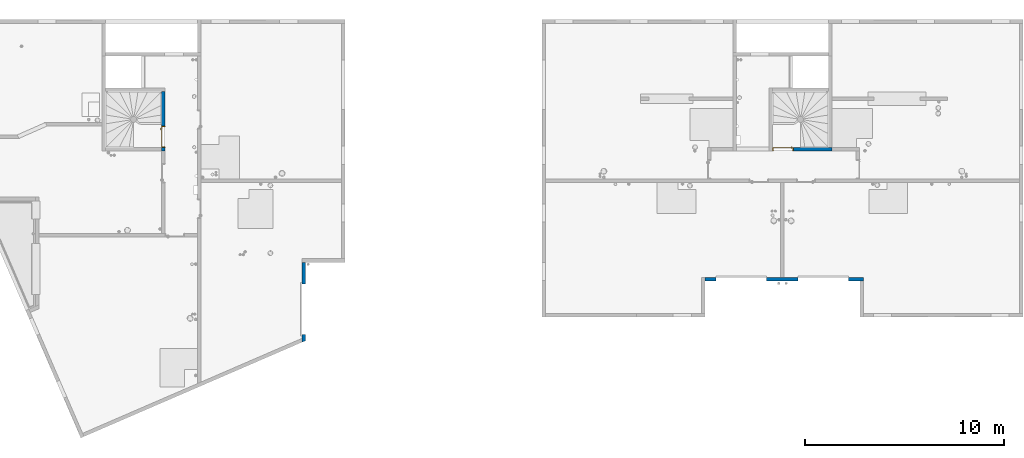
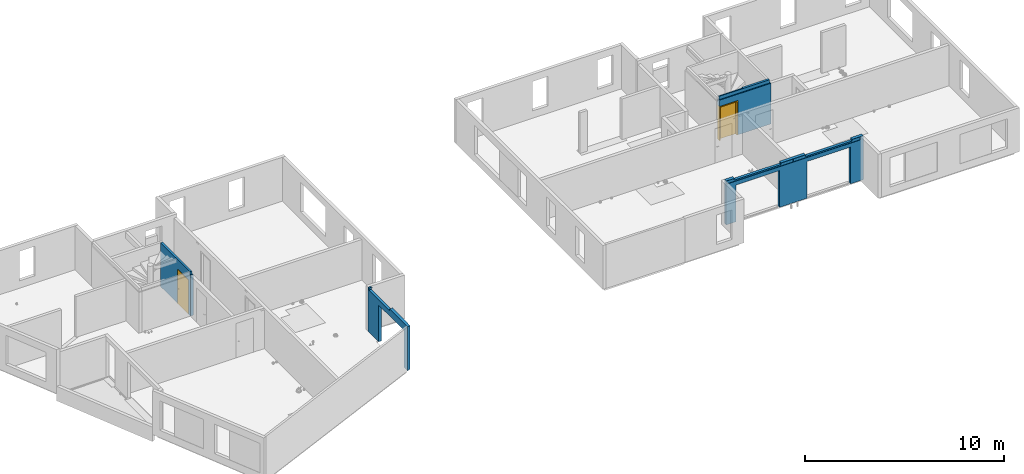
# One storey, part 17 of 24: 4 walls, 2 doors, 2 openings.
"""IFC2X3 building model written with IfcOpenShell, lengths in centimetres."""

from ifc_helpers import new_model, entity, si_unit, converted_unit, derived_unit, direction, frame, frame_2d, origin, place, context, subcontext, project, spatial, rectangle, extrude, faceted_brep, source, transform, mapped, material, material_list, layer, layer_set, type_object, type_shapes, element, fill, save


model = new_model("IFC2X3")

# Units and contexts
model_context = context("Model", 3, precision=0.001, world=origin(), true_north=direction((6.12303176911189e-17, 1.0)))
body_context = subcontext(model_context, "Body", "Model", "MODEL_VIEW")
ifc_project = project(units=[si_unit("LENGTHUNIT", "METRE", prefix="CENTI"), si_unit("AREAUNIT", "SQUARE_METRE"), si_unit("VOLUMEUNIT", "CUBIC_METRE"), converted_unit("PLANEANGLEUNIT", "DEGREE", entity("IfcRatioMeasure", 0.0174532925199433), si_unit("PLANEANGLEUNIT", "RADIAN"), dimensions=[0, 0, 0, 0, 0, 0, 0]), si_unit("MASSUNIT", "GRAM", prefix="KILO"), derived_unit("MASSDENSITYUNIT", [(si_unit("MASSUNIT", "GRAM", prefix="KILO"), 1), (si_unit("LENGTHUNIT", "METRE"), -3)]), si_unit("TIMEUNIT", "SECOND"), si_unit("FREQUENCYUNIT", "HERTZ"), si_unit("THERMODYNAMICTEMPERATUREUNIT", "DEGREE_CELSIUS"), derived_unit("THERMALTRANSMITTANCEUNIT", [(si_unit("MASSUNIT", "GRAM", prefix="KILO"), 1), (si_unit("THERMODYNAMICTEMPERATUREUNIT", "KELVIN"), -1), (si_unit("TIMEUNIT", "SECOND"), -3)]), derived_unit("VOLUMETRICFLOWRATEUNIT", [(si_unit("LENGTHUNIT", "METRE"), 3), (si_unit("TIMEUNIT", "SECOND"), -1)]), si_unit("ELECTRICCURRENTUNIT", "AMPERE"), si_unit("ELECTRICVOLTAGEUNIT", "VOLT"), si_unit("POWERUNIT", "WATT"), si_unit("FORCEUNIT", "NEWTON"), si_unit("ILLUMINANCEUNIT", "LUX"), si_unit("LUMINOUSFLUXUNIT", "LUMEN"), si_unit("LUMINOUSINTENSITYUNIT", "CANDELA"), derived_unit("USERDEFINED", [(si_unit("MASSUNIT", "GRAM", prefix="KILO"), -1), (si_unit("LENGTHUNIT", "METRE"), -2), (si_unit("TIMEUNIT", "SECOND"), 3), (si_unit("LUMINOUSFLUXUNIT", "LUMEN"), 1)]), derived_unit("LINEARVELOCITYUNIT", [(si_unit("LENGTHUNIT", "METRE"), 1), (si_unit("TIMEUNIT", "SECOND"), -1)]), si_unit("PRESSUREUNIT", "PASCAL"), derived_unit("USERDEFINED", [(si_unit("LENGTHUNIT", "METRE"), -2), (si_unit("MASSUNIT", "GRAM", prefix="KILO"), 1), (si_unit("TIMEUNIT", "SECOND"), -2)])], contexts=[model_context])

# Site, building, storey
site_placement = place(None, origin())
site = spatial("IfcSite", under=ifc_project, at=site_placement, Name="Default", CompositionType="ELEMENT")
building_placement = place(site_placement, origin())
building = spatial("IfcBuilding", under=site, at=building_placement, Name="CAGE 03", CompositionType="ELEMENT")
storey_placement = place(building_placement, frame((0.0, 0.0, 1150.0)))
storey = spatial("IfcBuildingStorey", under=building, at=storey_placement, Name="R+4", CompositionType="ELEMENT", Elevation=1150.0)

# Walls
ifc_material_1 = material(Name="Béton, C25/30")
ifc_layer = layer(ifc_material_1, 18.0)
ifc_layer_set = layer_set([ifc_layer], Name="Mur de base:Voile BA 18")
wall_type_1 = type_object("IfcWallType", Name="Mur de base:Voile BA 18", PredefinedType="STANDARD", material=ifc_layer_set)
wall_1_placement = place(storey_placement, frame((4671.36582014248, 3669.61970228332, 0.0), z_axis=(0.0, 0.0, 1.0), x_axis=(0.0, 1.0, 0.0)))
element("IfcWall", 1, at=wall_1_placement, inside=storey, type_object=wall_type_1, Name="Mur de base:Voile BA 18", ObjectType="Mur de base:Voile BA 18", context=body_context, shape_type="Brep", body=[
    faceted_brep([(189.540963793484, -9.0, 269.589956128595), (189.540963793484, -9.0, 270.0), (120.540963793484, -9.0, 270.0), (29.5409637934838, -9.0, 270.0), (27.4195266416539, -9.0, 270.0), (27.4586157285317, -9.0, 269.589956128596), (38.5409637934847, 9.0, 0.0), (30.5409637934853, 9.0, 0.0), (19.6127002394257, 9.0, 0.0), (0.0, 9.0, 0.0), (0.0, 9.0, 270.0), (13.6199307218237, 9.0, 270.0), (19.6127002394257, 9.0, 270.0), (29.5409637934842, 9.0, 270.0), (120.540963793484, 9.0, 270.0), (181.540963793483, 9.0, 270.0), (181.540963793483, 9.0, 258.0), (392.540963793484, 9.0, 258.0), (392.540963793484, 9.0, 270.0), (402.540963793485, 9.0, 270.0), (402.540963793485, 9.0, 250.0), (402.540963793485, 9.0, 0.0), (301.540963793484, 9.0, 0.0), (293.540963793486, 9.0, 0.0), (293.540963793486, 9.0, 226.0), (38.5409637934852, 9.0, 226.0), (38.5409637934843, -9.0, 0.0), (30.5409637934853, -9.0, 0.0), (27.4195266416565, -9.0, 0.0), (7.80644107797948, -9.0, 0.0), (7.78832528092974, -9.0, 0.0), (402.540963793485, -9.0, 270.0), (392.540963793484, -7.0, 270.0), (384.540963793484, -7.0, 270.0), (384.540963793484, -9.0, 270.0), (402.540963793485, -9.0, 0.0), (38.5409637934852, -9.0, 226.0), (293.540963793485, -9.0, 226.0), (293.540963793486, -9.0, 0.0), (7.78832528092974, -9.0, 270.0), (189.540963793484, -7.0, 269.609958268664), (189.540963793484, -7.0, 270.0), (384.540963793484, -9.0, 269.589956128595), (384.540963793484, -7.0, 269.609958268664), (181.540963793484, -7.0, 258.0), (392.540963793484, -7.0, 258.0), (392.540963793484, -7.0, 269.609958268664), (181.540963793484, -7.0, 269.609958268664), (26.5912316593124, -7.0, 269.609958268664), (26.5540493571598, -7.0, 270.0), (6.94096379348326, -7.0, 270.0), (6.94096379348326, -7.0, 250.0), (10.209811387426, -7.0, 250.0), (10.2098113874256, -7.0, 251.0), (11.2994272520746, -7.0, 251.466307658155), (11.2994272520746, -7.0, 250.0), (397.540963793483, -7.0, 250.0), (397.540963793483, -7.0, 251.466307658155), (398.540963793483, -7.0, 251.0), (398.540963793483, -7.0, 250.0), (401.540963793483, -7.0, 250.0), (401.540963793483, -7.0, 269.609958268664), (7.80644107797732, -9.0, 250.0), (11.0752886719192, -9.0, 250.0), (7.80644107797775, -9.0, 270.0), (401.540963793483, -9.0, 250.0), (401.540963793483, -9.0, 269.589956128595), (181.540963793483, -7.0, 270.0), (398.540963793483, -9.0, 251.0), (398.540963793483, -9.0, 250.0), (397.540963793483, -9.0, 250.0), (397.540963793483, -9.0, 251.466307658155), (11.0752886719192, -9.0, 251.0), (12.1649045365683, -9.0, 251.466307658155), (12.1649045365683, -9.0, 250.0), (301.540963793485, -9.0, 0.0)], [[[0, 1, 2, 3, 4, 5]], [[6, 7, 8, 9, 10, 11, 12, 13, 14, 15, 16, 17, 18, 19, 20, 21, 22, 23, 24, 25]], [[26, 27, 28, 29, 30, 9, 8, 7, 6]], [[31, 19, 18, 32, 33, 34]], [[31, 35, 21, 20, 19]], [[25, 36, 26, 6]], [[36, 25, 24, 37]], [[37, 24, 23, 38]], [[30, 39, 10, 9]], [[1, 0, 40, 41]], [[42, 34, 33, 43]], [[16, 44, 45, 17]], [[46, 45, 44, 47, 48, 49, 50, 51, 52, 53, 54, 55, 56, 57, 58, 59, 60, 61]], [[52, 51, 62, 63]], [[48, 47, 40, 0, 5]], [[49, 48, 5, 4]], [[51, 50, 64, 62]], [[61, 60, 65, 66]], [[46, 43, 33, 32]], [[40, 47, 67, 41]], [[59, 58, 68, 69]], [[57, 56, 70, 71]], [[58, 57, 71, 68]], [[53, 52, 63, 72]], [[55, 54, 73, 74]], [[54, 53, 72, 73]], [[45, 46, 32, 18, 17]], [[47, 44, 16, 15, 67]], [[46, 61, 66, 42, 43]], [[56, 55, 74, 70]], [[60, 59, 69, 65]], [[10, 39, 64, 50, 49, 4, 3, 2, 1, 41, 67, 15, 14, 13, 12, 11]], [[21, 35, 75, 38, 23, 22]], [[35, 31, 34, 42, 66, 65, 69, 68, 71, 70, 74, 73, 72, 63, 62, 64, 39, 30, 29, 28, 27, 26, 36, 37, 38, 75]]]),
])
wall_2_placement = place(storey_placement, frame((6691.36582014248, 3985.6606660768, 0.0)))
element("IfcWall", 2, at=wall_2_placement, inside=storey, type_object=wall_type_1, Name="Mur de base:Voile BA 18", ObjectType="Mur de base:Voile BA 18", context=body_context, shape_type="Brep", body=[
    faceted_brep([(0.0, -9.0, 270.0), (0.0, -9.0, 0.0), (56.0, -9.0, 0.0), (56.0, -9.0, 226.0), (311.0, -9.0, 226.0), (311.0, -9.0, 0.0), (469.0, -9.0, 0.0), (469.0, -9.0, 226.0), (724.0, -9.0, 226.0), (724.0, -9.0, 0.0), (780.0, -9.0, 0.0), (798.0, -9.0, 0.0), (798.0, -9.0, 250.0), (798.0, -9.0, 270.0), (780.0, -9.0, 270.0), (724.0, -9.0, 270.0), (724.0, -9.0, 269.589956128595), (779.0, -9.0, 269.589956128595), (779.0, -9.0, 250.0), (776.0, -9.0, 250.0), (776.0, -9.0, 251.0), (775.0, -9.0, 251.466307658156), (775.0, -9.0, 250.0), (394.499999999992, -9.0, 250.0), (394.499999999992, -9.0, 251.466307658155), (393.499999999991, -9.0, 251.0), (393.499999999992, -9.0, 250.0), (390.499999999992, -9.0, 250.0), (390.499999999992, -9.0, 269.589956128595), (469.0, -9.0, 269.589956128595), (469.0, -9.0, 270.0), (311.0, -9.0, 270.0), (311.0, -9.0, 269.589956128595), (389.5, -9.0, 269.589956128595), (389.5, -9.0, 250.0), (386.499999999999, -9.0, 250.0), (386.499999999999, -9.0, 251.0), (385.499999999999, -9.0, 251.466307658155), (385.5, -9.0, 250.0), (5.0, -9.0, 250.0), (5.0, -9.0, 251.466307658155), (4.0, -9.0, 251.0), (4.0, -9.0, 250.0), (1.0, -9.0, 250.0), (1.0, -9.0, 269.589956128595), (56.0, -9.0, 269.589956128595), (56.0, -9.0, 270.0), (56.0, 9.0, 0.0), (0.0, 9.0, 0.0), (0.0, 9.0, 250.0), (0.0, 9.0, 270.0), (48.0, 9.0, 270.0), (48.0, 9.0, 258.0), (319.0, 9.0, 258.0), (319.0, 9.0, 270.0), (461.0, 9.0, 270.0), (461.0, 9.0, 258.0), (732.0, 9.0, 258.0), (732.0, 9.0, 270.0), (798.0, 9.0, 270.0), (798.0, 9.0, 250.0), (798.0, 9.0, 0.0), (724.0, 9.0, 0.0), (724.0, 9.0, 226.0), (469.0, 9.0, 226.0), (469.0, 9.0, 0.0), (399.0, 9.0, 0.0), (381.0, 9.0, 0.0), (311.0, 9.0, 0.0), (311.0, 9.0, 226.0), (56.0, 9.0, 226.0), (732.0, -7.0, 270.0), (724.0, -7.0, 270.0), (389.5, -7.0, 250.0), (389.5, -7.0, 269.609958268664), (319.0, -7.0, 269.609958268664), (319.0, -7.0, 258.0), (48.0, -7.0, 258.0), (48.0, -7.0, 269.609958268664), (1.0, -7.0, 269.609958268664), (1.0, -7.0, 250.0), (4.0, -7.0, 250.0), (4.0, -7.0, 251.0), (5.0, -7.0, 251.466307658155), (5.0, -7.0, 250.0), (385.5, -7.0, 250.0), (385.5, -7.0, 251.466307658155), (386.499999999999, -7.0, 251.0), (386.499999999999, -7.0, 250.0), (461.0, -7.0, 258.0), (732.0, -7.0, 258.0), (394.499999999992, -7.0, 250.0), (775.0, -7.0, 250.0), (775.0, -7.0, 251.466307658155), (776.0, -7.0, 251.0), (776.0, -7.0, 250.0), (779.0, -7.0, 250.0), (779.0, -7.0, 269.609958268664), (732.0, -7.0, 269.609958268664), (461.0, -7.0, 269.609958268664), (390.499999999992, -7.0, 269.609958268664), (390.499999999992, -7.0, 250.0), (393.499999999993, -7.0, 250.0), (393.499999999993, -7.0, 251.0), (394.499999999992, -7.0, 251.466307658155), (56.0, -7.0, 269.609958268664), (56.0, -7.0, 270.0), (311.0, -7.0, 269.609958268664), (311.0, -7.0, 270.0), (469.0, -7.0, 269.609958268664), (469.0, -7.0, 270.0), (724.0, -7.0, 269.609958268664), (319.0, -7.0, 270.0), (48.0, -7.0, 270.0), (461.0, -7.0, 270.0)], [[[0, 1, 2, 3, 4, 5, 6, 7, 8, 9, 10, 11, 12, 13, 14, 15, 16, 17, 18, 19, 20, 21, 22, 23, 24, 25, 26, 27, 28, 29, 30, 31, 32, 33, 34, 35, 36, 37, 38, 39, 40, 41, 42, 43, 44, 45, 46]], [[47, 48, 49, 50, 51, 52, 53, 54, 55, 56, 57, 58, 59, 60, 61, 62, 63, 64, 65, 66, 67, 68, 69, 70]], [[1, 48, 47, 2]], [[13, 59, 58, 71, 72, 15, 14]], [[1, 0, 50, 49, 48]], [[11, 61, 60, 59, 13, 12]], [[4, 69, 68, 5]], [[69, 4, 3, 70]], [[70, 3, 2, 47]], [[8, 63, 62, 9]], [[63, 8, 7, 64]], [[64, 7, 6, 65]], [[73, 74, 75, 76, 77, 78, 79, 80, 81, 82, 83, 84, 85, 86, 87, 88]], [[56, 89, 90, 57]], [[91, 92, 93, 94, 95, 96, 97, 98, 90, 89, 99, 100, 101, 102, 103, 104]], [[45, 105, 106, 46]], [[107, 32, 31, 108]], [[52, 77, 76, 53]], [[81, 80, 43, 42]], [[105, 45, 44, 79, 78]], [[74, 73, 34, 33]], [[80, 79, 44, 43]], [[30, 29, 109, 110]], [[16, 15, 72, 111]], [[102, 101, 27, 26]], [[99, 109, 29, 28, 100]], [[97, 96, 18, 17]], [[101, 100, 28, 27]], [[75, 107, 108, 112]], [[105, 78, 113, 106]], [[88, 87, 36, 35]], [[86, 85, 38, 37]], [[87, 86, 37, 36]], [[82, 81, 42, 41]], [[84, 83, 40, 39]], [[83, 82, 41, 40]], [[98, 111, 72, 71]], [[109, 99, 114, 110]], [[95, 94, 20, 19]], [[93, 92, 22, 21]], [[94, 93, 21, 20]], [[103, 102, 26, 25]], [[91, 104, 24, 23]], [[104, 103, 25, 24]], [[76, 75, 112, 54, 53]], [[78, 77, 52, 51, 113]], [[90, 98, 71, 58, 57]], [[99, 89, 56, 55, 114]], [[98, 97, 17, 16, 111]], [[92, 91, 23, 22]], [[96, 95, 19, 18]], [[74, 33, 32, 107, 75]], [[85, 84, 39, 38]], [[73, 88, 35, 34]], [[31, 30, 110, 114, 55, 54, 112, 108]], [[50, 0, 46, 106, 113, 51]], [[5, 68, 67, 66, 65, 6]], [[61, 11, 10, 9, 62]]]),
])

# Wall, opening, door
wall_type_2 = type_object("IfcWallType", Name="Mur de base:premur 18", PredefinedType="NOTDEFINED")
wall_3_placement = place(storey_placement, frame((3963.36582014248, 4932.66066607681, 0.0), z_axis=(0.0, 0.0, 1.0), x_axis=(0.0, -1.0, 0.0)))
wall_3 = element("IfcWall", 3, at=wall_3_placement, inside=storey, type_object=wall_type_2, Name="Mur de base:premur 18", ObjectType="Mur de base:premur 18", context=body_context, shape_type="Brep", body=[
    faceted_brep([(0.0, -9.0, 270.0), (0.0, -9.0, 0.0), (175.0, -9.0, 0.0), (175.0, -9.0, 210.0), (282.0, -9.0, 210.0), (282.0, -9.0, 0.0), (294.499999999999, -9.0, 0.0), (300.0, -9.0, 0.0), (300.0, -9.0, 237.500000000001), (300.0, -9.0, 247.500000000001), (300.0, -9.0, 250.0), (294.5, -9.0, 250.0), (294.5, -9.0, 270.0), (287.5, -9.0, 270.0), (282.0, -9.0, 270.0), (175.0, -9.0, 270.0), (300.0, 9.0, 0.0), (282.0, 9.0, 0.0), (282.0, 9.0, 210.0), (175.0, 9.0, 210.0), (175.0, 9.0, 0.0), (0.0, 9.0, 0.0), (0.0, 9.0, 250.0), (300.0, 9.0, 250.0), (300.0, 9.0, 247.500000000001), (300.0, 9.0, 237.500000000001), (0.0, 3.50000000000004, 0.0), (294.5, 3.5000000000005, 270.0), (0.0, 3.50000000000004, 270.0), (0.0, 3.50000000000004, 250.0), (294.5, 3.5000000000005, 250.0)], [[[0, 1, 2, 3, 4, 5, 6, 7, 8, 9, 10, 11, 12, 13, 14, 15]], [[16, 17, 18, 19, 20, 21, 22, 23, 24, 25]], [[1, 26, 21, 20, 2]], [[0, 15, 14, 13, 12, 27, 28]], [[1, 0, 28, 29, 22, 21, 26]], [[7, 16, 25, 24, 23, 10, 9, 8]], [[5, 4, 18, 17]], [[4, 3, 19, 18]], [[3, 2, 20, 19]], [[29, 30, 11, 10, 23, 22]], [[30, 27, 12, 11]], [[27, 30, 29, 28]], [[16, 7, 6, 5, 17]]]),
])
opening_1_placement = place(wall_3_placement, frame((282.0, 9.0, 0.0)))
opening_1 = element("IfcOpeningElement", 4, at=opening_1_placement, cuts=wall_3, Name="Int. Simple:HB103:1", ObjectType="Opening", context=body_context, shape_type="SweptSolid", body=[
    extrude(rectangle(XDim=210.000000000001, YDim=107.0, at=frame_2d((105.000000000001, 53.5000000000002), x_axis=(1.0, 0.0))), frame((0.0, 0.0, 0.0), z_axis=(0.0, -1.0, 0.0), x_axis=(0.0, 0.0, 1.0)), (0.0, 0.0, 1.0), 18.0),
])
ifc_material_2 = material(Name="Finition Peinture - Blanc satiné")
ifc_material_3 = material(Name="Bois - Panneau de porte")
ifc_material_4 = material(Name="Bois - Cadre de porte")
ifc_material_list_1 = material_list([ifc_material_2, ifc_material_3, ifc_material_4])
ifc_material_list_2 = material_list([ifc_material_2, ifc_material_3, ifc_material_4])
door_style = type_object("IfcDoorStyle", Name="HB103", ConstructionType="NOTDEFINED", OperationType="SINGLE_SWING_LEFT", ParameterTakesPrecedence=False, Sizeable=False, material=ifc_material_list_2)
shared_shape = source(origin(), body_context, "Body", "Brep", [
    faceted_brep([(10.5352761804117, -0.500000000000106, 86.6003983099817), (11.5000000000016, -0.500000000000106, 87.0), (11.5000000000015, -0.500000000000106, 108.0), (10.5352761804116, -0.500000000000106, 108.399601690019), (9.50000000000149, -0.500000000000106, 108.535898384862), (8.46472381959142, -0.500000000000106, 108.399601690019), (7.50000000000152, -0.500000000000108, 108.0), (7.50000000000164, -0.500000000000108, 87.0), (8.46472381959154, -0.500000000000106, 86.6003983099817), (9.5000000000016, -0.500000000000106, 86.464101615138), (10.5352761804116, 0.0, 108.399601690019), (11.5000000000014, 0.0, 108.0), (11.5000000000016, 0.0, 87.0), (10.5352761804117, 0.0, 86.6003983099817), (9.5000000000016, 0.0, 86.464101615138), (8.46472381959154, 0.0, 86.6003983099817), (7.50000000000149, 0.0, 87.0), (7.50000000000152, 0.0, 108.0), (8.46472381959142, 0.0, 108.399601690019), (9.50000000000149, 0.0, 108.535898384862)], [[[0, 1, 2, 3, 4, 5, 6, 7, 8, 9]], [[10, 11, 12, 13, 14, 15, 16, 17, 18, 19]], [[16, 15, 8, 7]], [[8, 15, 14, 9]], [[14, 13, 0, 9]], [[13, 12, 1, 0]], [[2, 1, 12, 11]], [[11, 10, 3, 2]], [[3, 10, 19, 4]], [[19, 18, 5, 4]], [[18, 17, 6, 5]], [[7, 6, 17, 16]]]),
    faceted_brep([(10.5352761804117, 3.0, 86.6003983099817), (11.5000000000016, 3.0, 87.0), (11.5000000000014, 3.0, 108.0), (10.5352761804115, 3.0, 108.399601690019), (9.50000000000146, 3.0, 108.535898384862), (8.4647238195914, 3.0, 108.399601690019), (7.50000000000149, 3.0, 108.0), (7.50000000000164, 3.0, 87.0), (8.46472381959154, 3.0, 86.6003983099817), (9.50000000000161, 3.0, 86.464101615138), (10.5352761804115, 3.49999999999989, 108.399601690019), (11.5000000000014, 3.49999999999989, 108.0), (11.5000000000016, 3.49999999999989, 87.0), (10.5352761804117, 3.49999999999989, 86.6003983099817), (9.50000000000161, 3.49999999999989, 86.464101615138), (8.46472381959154, 3.49999999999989, 86.6003983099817), (7.50000000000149, 3.49999999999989, 87.0), (7.50000000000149, 3.49999999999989, 108.0), (8.4647238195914, 3.49999999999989, 108.399601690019), (9.50000000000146, 3.49999999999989, 108.535898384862)], [[[0, 1, 2, 3, 4, 5, 6, 7, 8, 9]], [[10, 11, 12, 13, 14, 15, 16, 17, 18, 19]], [[11, 10, 3, 2]], [[3, 10, 19, 4]], [[19, 18, 5, 4]], [[18, 17, 6, 5]], [[7, 6, 17, 16]], [[16, 15, 8, 7]], [[8, 15, 14, 9]], [[14, 13, 0, 9]], [[13, 12, 1, 0]], [[2, 1, 12, 11]]]),
    faceted_brep([(9.29747013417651, -0.500000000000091, 100.778044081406), (9.70252986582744, -0.500000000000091, 100.778044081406), (10.1000000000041, -0.500000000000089, 100.699999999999), (10.1000000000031, -0.500000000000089, 99.3000000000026), (9.7025298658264, -0.500000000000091, 99.2219559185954), (9.29747013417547, -0.500000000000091, 99.2219559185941), (8.89999999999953, -0.500000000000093, 99.2999999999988), (8.89999999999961, -0.500000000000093, 100.7), (8.8999999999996, -3.26509507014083, 100.7), (9.29747013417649, -3.1004575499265, 100.778044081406), (10.9023585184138, -4.70534593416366, 100.778044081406), (11.0701397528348, -4.30028620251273, 100.778044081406), (9.70252986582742, -2.93267631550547, 100.778044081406), (10.1000000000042, -2.76803879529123, 100.7), (10.1000000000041, -2.76803879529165, 99.3000000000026), (9.7025298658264, -2.93267631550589, 99.2219559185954), (11.0701397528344, -4.30028620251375, 99.2219559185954), (10.9023585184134, -4.70534593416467, 99.2219559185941), (9.29747013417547, -3.10045754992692, 99.2219559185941), (8.89999999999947, -3.26509507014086, 99.2999999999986), (10.7377209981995, -5.10281606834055, 100.7), (11.2347772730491, -3.90281606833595, 100.7), (11.2347772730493, -3.90281606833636, 99.3000000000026), (10.7377209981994, -5.10281606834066, 99.2999999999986), (19.5018640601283, -5.10281606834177, 99.2999999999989), (19.5018640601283, -4.70534593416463, 99.2219559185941), (19.5018640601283, -4.30028620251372, 99.2219559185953), (19.5018640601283, -3.90281606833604, 99.3000000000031), (19.5018640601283, -3.90281606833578, 100.7), (19.5018640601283, -4.30028620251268, 100.778044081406), (19.5018640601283, -4.7053459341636, 100.778044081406), (19.5018640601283, -5.10281606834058, 100.699999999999), (14.7307697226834, -5.10281606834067, 100.7), (15.2860019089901, -4.50281606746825, 100.78786867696), (15.3683206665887, -3.90281606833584, 100.7), (15.3683206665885, -3.90281606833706, 99.3000000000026), (15.2860018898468, -4.50281607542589, 99.2121313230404), (14.7307703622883, -5.10281606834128, 99.2999999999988)], [[[0, 1, 2, 3, 4, 5, 6, 7]], [[8, 9, 0, 7]], [[9, 10, 11, 12, 1, 0]], [[12, 13, 2, 1]], [[3, 2, 13, 14]], [[14, 15, 4, 3]], [[15, 16, 17, 18, 5, 4]], [[18, 19, 6, 5]], [[7, 6, 19, 8]], [[20, 10, 9, 8]], [[11, 21, 13, 12]], [[14, 13, 21, 22]], [[22, 16, 15, 14]], [[17, 23, 19, 18]], [[8, 19, 23, 20]], [[24, 25, 26, 27, 28, 29, 30, 31]], [[32, 30, 33]], [[31, 30, 32]], [[10, 20, 32]], [[33, 34, 11]], [[21, 11, 34]], [[34, 29, 28]], [[30, 29, 33]], [[29, 34, 33]], [[10, 32, 33]], [[10, 33, 11]], [[22, 21, 34, 28, 27, 35]], [[35, 26, 36]], [[37, 36, 25]], [[22, 35, 16]], [[35, 27, 26]], [[24, 37, 25]], [[23, 17, 37]], [[37, 17, 36]], [[17, 16, 36]], [[16, 35, 36]], [[25, 36, 26]], [[20, 23, 37, 24, 31, 32]]]),
    faceted_brep([(9.29747013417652, 3.49999999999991, 100.778044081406), (8.89999999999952, 3.4999999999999, 100.7), (8.89999999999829, 3.4999999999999, 99.299999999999), (9.29747013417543, 3.49999999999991, 99.2219559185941), (9.70252986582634, 3.49999999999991, 99.2219559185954), (10.1000000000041, 3.49999999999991, 99.3000000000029), (10.1000000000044, 3.49999999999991, 100.7), (9.70252986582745, 3.49999999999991, 100.778044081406), (10.1000000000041, 5.74852045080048, 99.3000000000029), (10.1000000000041, 5.74852045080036, 100.7), (9.70252986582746, 5.91315797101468, 100.778044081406), (11.0838906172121, 7.29451872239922, 100.778044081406), (10.9161093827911, 7.69957845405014, 100.778044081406), (9.29747013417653, 6.08093920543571, 100.778044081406), (8.89999999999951, 6.2455767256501, 100.7), (8.8999999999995, 6.24557672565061, 99.299999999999), (9.29747013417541, 6.08093920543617, 99.2219559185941), (10.9161093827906, 7.69957845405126, 99.2219559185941), (11.0838906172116, 7.29451872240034, 99.2219559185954), (9.70252986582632, 5.91315797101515, 99.2219559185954), (11.2485281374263, 6.89704858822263, 99.3000000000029), (11.2485281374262, 6.89704858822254, 100.7), (10.7514718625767, 8.09704858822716, 100.7), (10.7514718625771, 8.09704858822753, 99.299999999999), (19.5045783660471, 6.8970485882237, 99.3000000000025), (19.5045783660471, 7.29451872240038, 99.2219559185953), (19.5045783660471, 7.6995784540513, 99.2219559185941), (19.5045783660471, 8.09704858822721, 99.2999999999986), (19.5045783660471, 8.0970485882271, 100.7), (19.5045783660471, 7.6995784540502, 100.778044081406), (19.5045783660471, 7.29451872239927, 100.778044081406), (19.5045783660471, 6.89704858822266, 100.7), (15.3765532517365, 6.89704858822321, 99.3000000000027), (15.3765532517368, 6.89704858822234, 100.7), (15.2942344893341, 7.4970485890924, 100.78786867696), (14.7445205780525, 8.09704858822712, 100.7), (14.7445205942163, 8.09704858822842, 99.299999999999), (15.2942345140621, 7.49704858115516, 99.2121313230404)], [[[0, 1, 2, 3, 4, 5, 6, 7]], [[6, 5, 8, 9]], [[9, 10, 7, 6]], [[10, 11, 12, 13, 0, 7]], [[13, 14, 1, 0]], [[2, 1, 14, 15]], [[15, 16, 3, 2]], [[16, 17, 18, 19, 4, 3]], [[19, 8, 5, 4]], [[9, 8, 20, 21]], [[21, 11, 10, 9]], [[12, 22, 14, 13]], [[15, 14, 22, 23]], [[23, 17, 16, 15]], [[18, 20, 8, 19]], [[24, 25, 26, 27, 28, 29, 30, 31]], [[21, 20, 32, 24, 31, 33]], [[33, 30, 34]], [[35, 34, 29]], [[21, 33, 11]], [[33, 31, 30]], [[28, 35, 29]], [[22, 12, 35]], [[35, 12, 34]], [[12, 11, 34]], [[11, 33, 34]], [[29, 34, 30]], [[22, 35, 28, 27, 36, 23]], [[36, 26, 37]], [[27, 26, 36]], [[17, 23, 36]], [[37, 32, 18]], [[20, 18, 32]], [[32, 25, 24]], [[26, 25, 37]], [[25, 32, 37]], [[17, 36, 37]], [[17, 37, 18]]]),
    faceted_brep([(3.5000000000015, 3.0, 206.5), (103.500000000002, 3.0, 206.5), (103.500000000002, 3.0, 0.0), (3.5000000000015, 3.0, 0.0), (3.5000000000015, 0.0, 206.5), (3.5000000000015, 0.0, 0.0), (103.500000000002, 0.0, 0.0), (103.500000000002, 0.0, 206.5)], [[[0, 1, 2, 3]], [[4, 5, 6, 7]], [[1, 0, 4, 7]], [[2, 1, 7, 6]], [[3, 2, 6, 5]], [[0, 3, 5, 4]]]),
    faceted_brep([(0.0, 0.0, 0.0), (0.0, 18.0, 0.0), (5.0, 18.0, 0.0), (5.0, 3.0, 0.0), (3.50000000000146, 3.0, 0.0), (3.50000000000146, 0.0, 0.0), (0.0, 0.0, 210.0), (0.0, 18.0, 210.0), (107.0, 18.0, 210.0), (107.0, 18.0, 0.0), (102.0, 18.0, 0.0), (102.0, 18.0, 205.0), (5.0, 18.0, 205.0), (5.0, 3.0, 205.0), (102.0, 3.0, 205.0), (102.0, 3.0, 0.0), (103.499999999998, 3.0, 0.0), (103.499999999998, 3.0, 206.5), (3.50000000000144, 3.0, 206.5), (3.50000000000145, 0.0, 206.5), (103.499999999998, 0.0, 206.5), (103.499999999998, 0.0, 0.0), (107.0, 0.0, 0.0), (107.0, 0.0, 210.0)], [[[0, 1, 2, 3, 4, 5]], [[1, 0, 6, 7]], [[2, 1, 7, 8, 9, 10, 11, 12]], [[3, 2, 12, 13]], [[4, 3, 13, 14, 15, 16, 17, 18]], [[5, 4, 18, 19]], [[0, 5, 19, 20, 21, 22, 23, 6]], [[8, 23, 22, 9]], [[22, 21, 16, 15, 10, 9]], [[14, 11, 10, 15]], [[20, 17, 16, 21]], [[7, 6, 23, 8]], [[13, 12, 11, 14]], [[19, 18, 17, 20]]]),
    faceted_brep([(1.49999999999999, 18.0, 0.0), (-1.5, 18.0, 0.0), (-1.5, 18.5000000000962, 0.0), (1.49999999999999, 18.5000000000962, 0.0), (1.49999999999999, 18.0, 208.500000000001), (105.5, 18.0, 208.500000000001), (105.5, 18.0, 0.0), (108.5, 18.0, 0.0), (108.5, 18.0, 211.500000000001), (-1.50000000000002, 18.0, 211.500000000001), (-1.5, 18.5000000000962, 211.500000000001), (108.5, 18.5000000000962, 211.500000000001), (108.5, 18.5000000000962, 0.0), (105.5, 18.5000000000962, 0.0), (105.5, 18.5000000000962, 208.500000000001), (1.49999999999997, 18.5000000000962, 208.500000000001)], [[[0, 1, 2, 3]], [[1, 0, 4, 5, 6, 7, 8, 9]], [[2, 1, 9, 10]], [[3, 2, 10, 11, 12, 13, 14, 15]], [[0, 3, 15, 4]], [[6, 13, 12, 7]], [[5, 14, 13, 6]], [[11, 8, 7, 12]], [[10, 9, 8, 11]], [[4, 15, 14, 5]]]),
    faceted_brep([(-1.5, -0.5, 0.0), (1.49999999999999, -0.5, 0.0), (1.49999999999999, -0.5, 208.500000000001), (105.5, -0.5, 208.500000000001), (105.5, -0.5, 0.0), (108.5, -0.5, 0.0), (108.5, -0.5, 211.500000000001), (-1.50000000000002, -0.5, 211.500000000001), (-1.5, 0.0, 0.0), (-1.5, 0.0, 211.500000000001), (1.49999999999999, 0.0, 0.0), (108.5, 0.0, 211.500000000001), (108.5, 0.0, 0.0), (105.5, 0.0, 0.0), (105.5, 0.0, 208.500000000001), (1.49999999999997, 0.0, 208.500000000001)], [[[0, 1, 2, 3, 4, 5, 6, 7]], [[8, 0, 7, 9]], [[10, 8, 9, 11, 12, 13, 14, 15]], [[1, 10, 15, 2]], [[3, 14, 13, 4]], [[11, 6, 5, 12]], [[9, 7, 6, 11]], [[2, 15, 14, 3]], [[4, 13, 12, 5]], [[1, 0, 8, 10]]]),
])
type_shapes(door_style, [shared_shape])
door_1_placement = place(opening_1_placement, frame((-107.0, -18.0, 0.0)))
door_1 = element("IfcDoor", 5, at=door_1_placement, inside=storey, type_object=door_style, material=ifc_material_list_1, Name="Int. Simple:HB103", ObjectType="HB103", OverallHeight=210.000000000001, OverallWidth=107.0, context=body_context, shape_type="MappedRepresentation", body=[
    mapped(shared_shape, transform((0.0, 0.0, 0.0), scale=1.0)),
])
fill(opening_1, door_1)

wall_4_placement = place(storey_placement, frame((7031.36582014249, 4641.6606660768, 0.0)))
wall_4 = element("IfcWall", 6, at=wall_4_placement, inside=storey, type_object=wall_type_2, Name="Mur de base:premur 18", ObjectType="Mur de base:premur 18", context=body_context, shape_type="Brep", body=[
    faceted_brep([(107.0, -9.0, 0.0), (300.0, -9.0, 0.0), (300.0, -9.0, 250.0), (0.0, -9.0, 250.0), (0.0, -9.0, 210.0), (107.0, -9.0, 210.0), (300.0, 9.0, 0.0), (294.499999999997, 9.0, 0.0), (282.0, 9.0, 0.0), (141.0, 9.0, 0.0), (107.0, 9.0, 0.0), (107.0, 9.0, 210.0), (0.0, 9.0, 210.0), (0.0, 9.0, 250.0), (141.0, 9.0, 250.0), (141.0, 9.0, 270.0), (282.0, 9.0, 270.0), (294.499999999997, 9.0, 270.0), (294.499999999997, 9.0, 250.0), (300.0, 9.0, 250.0), (0.0, -3.50000000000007, 270.0), (294.499999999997, -3.50000000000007, 270.0), (141.0, 3.49999999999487, 270.0), (0.0, 3.50000000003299, 270.0), (0.0, -3.50000000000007, 250.0), (0.0, 3.50000000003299, 250.0), (294.499999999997, -3.50000000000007, 250.0), (141.0, 3.49999999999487, 250.0)], [[[0, 1, 2, 3, 4, 5]], [[6, 7, 8, 9, 10, 11, 12, 13, 14, 15, 16, 17, 18, 19]], [[6, 1, 0, 10, 9, 8, 7]], [[20, 21, 17, 16, 15, 22, 23]], [[12, 4, 3, 24, 20, 23, 25, 13]], [[1, 6, 19, 2]], [[11, 5, 4, 12]], [[5, 11, 10, 0]], [[26, 24, 3, 2, 19, 18]], [[24, 26, 21, 20]], [[27, 14, 13, 25]], [[27, 22, 15, 14]], [[22, 27, 25, 23]], [[21, 26, 18, 17]]]),
])
opening_2_placement = place(wall_4_placement, frame((0.0, -9.0, 0.0)))
opening_2 = element("IfcOpeningElement", 7, at=opening_2_placement, cuts=wall_4, Name="Int. Simple:HB103:1", ObjectType="Opening", context=body_context, shape_type="SweptSolid", body=[
    extrude(rectangle(XDim=210.000000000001, YDim=107.0, at=frame_2d((105.000000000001, 53.4999999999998), x_axis=(1.0, 0.0))), frame((0.0, 0.0, 0.0), z_axis=(0.0, 1.0, 0.0), x_axis=(0.0, 0.0, 1.0)), (0.0, 0.0, 1.0), 18.0),
])
ifc_material_list_3 = material_list([ifc_material_2, ifc_material_3, ifc_material_4])
door_2_placement = place(opening_2_placement, frame((107.0, 18.0, 0.0), z_axis=(0.0, 0.0, 1.0), x_axis=(-1.0, 0.0, 0.0)))
door_2 = element("IfcDoor", 8, at=door_2_placement, inside=storey, type_object=door_style, material=ifc_material_list_3, Name="Int. Simple:HB103", ObjectType="HB103", OverallHeight=210.000000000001, OverallWidth=107.0, context=body_context, shape_type="MappedRepresentation", body=[
    mapped(shared_shape, transform((0.0, 0.0, 0.0), scale=1.0)),
])
fill(opening_2, door_2)

save(model, "model.ifc")
